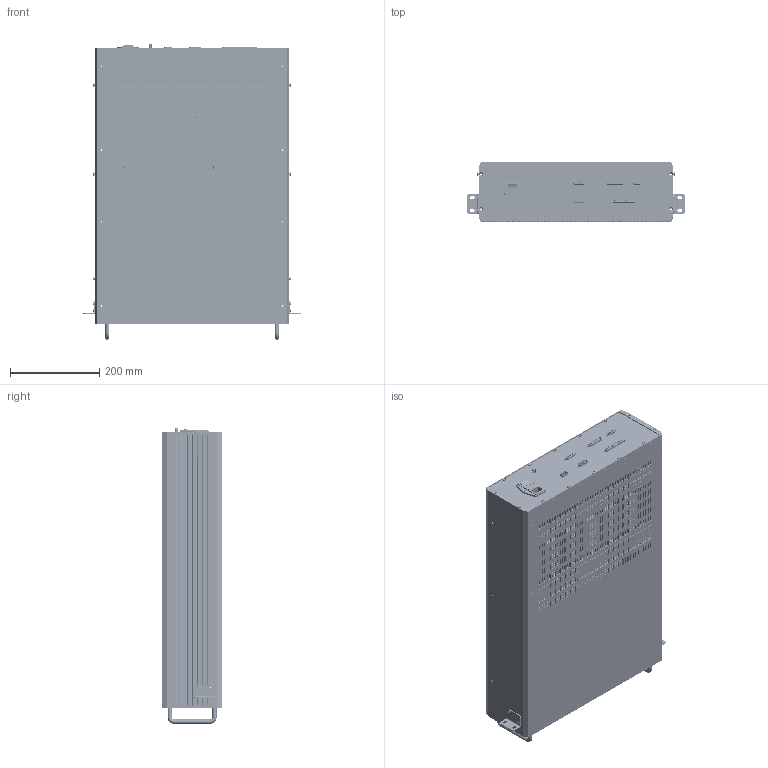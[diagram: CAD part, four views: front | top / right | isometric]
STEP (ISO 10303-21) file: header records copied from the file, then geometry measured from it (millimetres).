
FILE_DESCRIPTION (( 'STEP AP203' ), '1' );
FILE_NAME ('E00.A3AL.STEP', '2025-07-11T02:38:11', ( 'China' ), ( 'Home' ), 'SwSTEP 2.0', 'SolidWorks 2016', '' );
FILE_SCHEMA (( 'CONFIG_CONTROL_DESIGN' ));
Products named in the file (1): E00.A3AL
Bounding box: 487.8 x 133 x 662.9 mm (x, y, z)
Surface area: 2392080.9 mm2 (no closed solid volume)
Topology: 0 solids, 1011 shells, 5032 faces, 25177 edges, 20713 vertices
Faces by surface type: plane 3121, cylinder 1648, cone 136, bspline 119, torus 8
Entity records: 266779 total; most frequent: CARTESIAN_POINT 73699, DIRECTION 37097, ORIENTED_EDGE 34182, EDGE_CURVE 25131, VERTEX_POINT 20713, VECTOR 16135, LINE 16135, AXIS2_PLACEMENT_3D 10481
